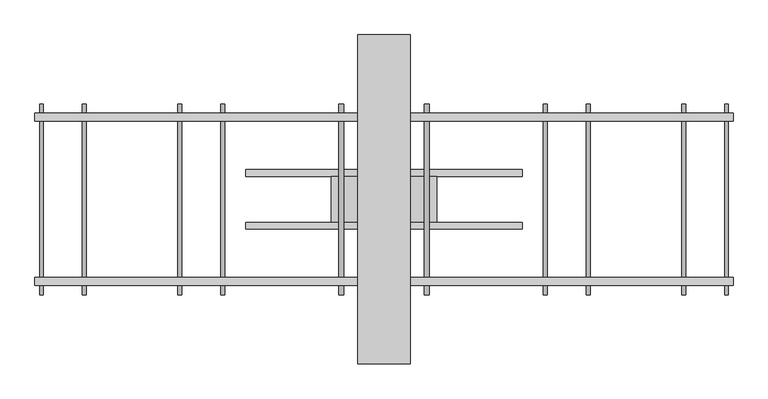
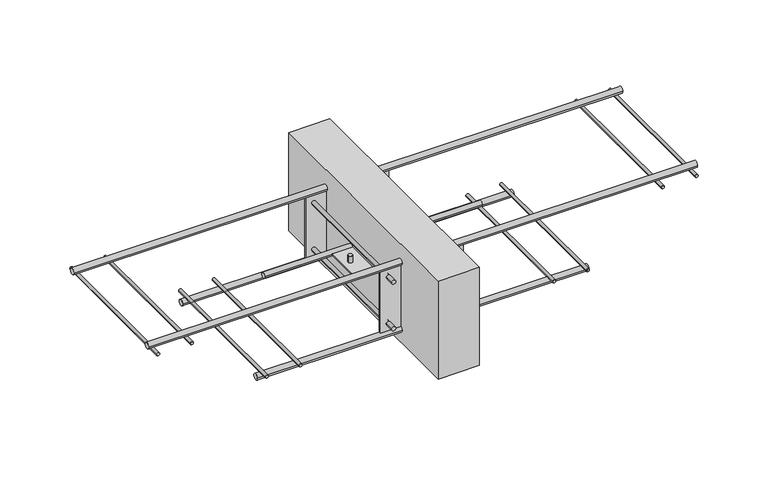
"""IFC4 building model written with IfcOpenShell, lengths in millimetres: fastener geometry, ACINOXplus_Typenreihe_K : KP(A)+ S1."""

from ifc_helpers import new_model, si_unit, point, frame, frame_2d, origin, place, context, project, spatial, polyline, circle_curve, trimmed, segment, composite_curve, outline, extrude, source, transform, mapped, element, save
from ifc_brep_helpers import plane_surface, cylinder_surface, advanced_brep


def fastener_73a1aff1(model_context):
    return source(origin(), model_context, "Body", "SolidModel", [
        extrude(outline(polyline([(40.0, 250.0), (40.0, -250.0), (-40.0, -250.0), (-40.0, 250.0), (40.0, 250.0)])), frame((0.0, 0.0, -200.0), z_axis=(0.0, 0.0, 1.0), x_axis=(1.0, 0.0, 0.0)), (0.0, 0.0, 1.0), 200.0),
        extrude(outline(composite_curve([segment(trimmed(circle_curve(frame_2d((-40.0, -104.5)), 5.0), [point((-45.0, -104.5))], [point((-35.0, -104.5))], False, "CARTESIAN"), True, "CONTINUOUS"), segment(trimmed(circle_curve(frame_2d((-40.0, -104.5)), 5.0), [point((-35.0, -104.5))], [point((-45.0, -104.5))], False, "CARTESIAN"), True, "CONTINUOUS")], self_intersect=False)), frame((-210.0, 0.0, 0.0), z_axis=(1.0, 0.0, 0.0), x_axis=(0.0, 1.0, 0.0)), (0.0, 0.0, 1.0), 420.0),
        extrude(outline(composite_curve([segment(trimmed(circle_curve(frame_2d((40.0, -104.5)), 5.0), [point((35.0, -104.5))], [point((45.0, -104.5))], False, "CARTESIAN"), True, "CONTINUOUS"), segment(trimmed(circle_curve(frame_2d((40.0, -104.5)), 5.0), [point((45.0, -104.5))], [point((35.0, -104.5))], False, "CARTESIAN"), True, "CONTINUOUS")], self_intersect=False)), frame((-210.0, 0.0, 0.0), z_axis=(1.0, 0.0, 0.0), x_axis=(0.0, 1.0, 0.0)), (0.0, 0.0, 1.0), 420.0),
        advanced_brep(
        [(-69.0, 0.0, -89.5), (-61.0, 0.0, -89.5), (61.0, 0.0, -89.5), (69.0, 0.0, -89.5), (-69.0, 0.0, -119.5), (-61.0, 0.0, -119.5), (61.0, 0.0, -119.5), (69.0, 0.0, -119.5), (-69.0, 0.0, -103.0), (-61.0, 0.0, -103.0), (-61.0, 0.0, -106.0), (-69.0, 0.0, -106.0), (61.0, 0.0, -103.0), (69.0, 0.0, -103.0), (69.0, 0.0, -106.0), (61.0, 0.0, -106.0), (80.0, 35.0, -103.0), (-80.0, 35.0, -103.0), (-80.0, -35.0, -103.0), (80.0, -35.0, -103.0), (80.0, 35.0, -106.0), (80.0, -35.0, -106.0), (-80.0, -35.0, -106.0), (-80.0, 35.0, -106.0)],
        [
            (0, 1, circle_curve(frame((-65.0, 0.0, -89.5), z_axis=(0.0, 0.0, 1.0), x_axis=(1.0, 0.0, 0.0)), 4.0)),
            (1, 0, circle_curve(frame((-65.0, 0.0, -89.5), z_axis=(0.0, 0.0, 1.0), x_axis=(1.0, 0.0, 0.0)), 4.0)),
            (2, 3, circle_curve(frame((65.0, 0.0, -89.5), z_axis=(0.0, 0.0, 1.0), x_axis=(1.0, 0.0, 0.0)), 4.0)),
            (3, 2, circle_curve(frame((65.0, 0.0, -89.5), z_axis=(0.0, 0.0, 1.0), x_axis=(1.0, 0.0, 0.0)), 4.0)),
            (4, 5, circle_curve(frame((-65.0, 0.0, -119.5), z_axis=(0.0, 0.0, -1.0), x_axis=(1.0, 0.0, 0.0)), 4.0)),
            (5, 4, circle_curve(frame((-65.0, 0.0, -119.5), z_axis=(0.0, 0.0, -1.0), x_axis=(1.0, 0.0, 0.0)), 4.0)),
            (6, 7, circle_curve(frame((65.0, 0.0, -119.5), z_axis=(0.0, 0.0, -1.0), x_axis=(1.0, 0.0, 0.0)), 4.0)),
            (7, 6, circle_curve(frame((65.0, 0.0, -119.5), z_axis=(0.0, 0.0, -1.0), x_axis=(1.0, 0.0, 0.0)), 4.0)),
            (0, 8),
            (8, 9, circle_curve(frame((-65.0, 0.0, -103.0), z_axis=(0.0, 0.0, 1.0), x_axis=(1.0, 0.0, 0.0)), 4.0)),
            (9, 1),
            (5, 10),
            (10, 11, circle_curve(frame((-65.0, 0.0, -106.0), z_axis=(0.0, 0.0, -1.0), x_axis=(1.0, 0.0, 0.0)), 4.0)),
            (11, 4),
            (9, 8, circle_curve(frame((-65.0, 0.0, -103.0), z_axis=(0.0, 0.0, 1.0), x_axis=(1.0, 0.0, 0.0)), 4.0)),
            (11, 10, circle_curve(frame((-65.0, 0.0, -106.0), z_axis=(0.0, 0.0, -1.0), x_axis=(1.0, 0.0, 0.0)), 4.0)),
            (2, 12),
            (12, 13, circle_curve(frame((65.0, 0.0, -103.0), z_axis=(0.0, 0.0, 1.0), x_axis=(1.0, 0.0, 0.0)), 4.0)),
            (13, 3),
            (7, 14),
            (14, 15, circle_curve(frame((65.0, 0.0, -106.0), z_axis=(0.0, 0.0, -1.0), x_axis=(1.0, 0.0, 0.0)), 4.0)),
            (15, 6),
            (13, 12, circle_curve(frame((65.0, 0.0, -103.0), z_axis=(0.0, 0.0, 1.0), x_axis=(1.0, 0.0, 0.0)), 4.0)),
            (15, 14, circle_curve(frame((65.0, 0.0, -106.0), z_axis=(0.0, 0.0, -1.0), x_axis=(1.0, 0.0, 0.0)), 4.0)),
            (16, 17),
            (17, 18),
            (18, 19),
            (19, 16),
            (20, 21),
            (21, 22),
            (22, 23),
            (23, 20),
            (16, 20),
            (23, 17),
            (22, 18),
            (21, 19),
        ],
        [
            plane_surface(frame((-61.0, 0.0, -89.5), z_axis=(0.0, 0.0, 1.0), x_axis=(0.0, 1.0, 0.0))),
            plane_surface(frame((-61.0, 0.0, -119.5), z_axis=(0.0, 0.0, -1.0), x_axis=(0.0, -1.0, 0.0))),
            cylinder_surface(frame((-65.0, 0.0, -119.5), z_axis=(0.0, 0.0, 1.0), x_axis=(1.0, 0.0, 0.0)), 4.0),
            cylinder_surface(frame((65.0, 0.0, -104.5), z_axis=(0.0, 0.0, 1.0), x_axis=(1.0, 0.0, 0.0)), 4.0),
            plane_surface(frame((-80.0, 35.0, -103.0), z_axis=(0.0, 0.0, 1.0), x_axis=(-1.0, 0.0, 0.0))),
            plane_surface(frame((-80.0, 35.0, -106.0), z_axis=(0.0, 0.0, -1.0), x_axis=(1.0, 0.0, 0.0))),
            plane_surface(frame((80.0, 35.0, -103.0), z_axis=(0.0, 1.0, 0.0), x_axis=(0.0, 0.0, -1.0))),
            plane_surface(frame((-80.0, 35.0, -103.0), z_axis=(-1.0, 0.0, 0.0), x_axis=(0.0, 0.0, -1.0))),
            plane_surface(frame((-80.0, -35.0, -103.0), z_axis=(0.0, -1.0, 0.0), x_axis=(0.0, 0.0, -1.0))),
            plane_surface(frame((80.0, -35.0, -103.0), z_axis=(1.0, 0.0, 0.0), x_axis=(0.0, 0.0, -1.0))),
        ],
        [
            (0, [[1, 2]]),
            (0, [[3, 4]]),
            (1, [[5, 6]]),
            (1, [[7, 8]]),
            (2, [[-1, 9, 10, 11]]),
            (2, [[-6, 12, 13, 14]]),
            (2, [[-2, -11, 15, -9]]),
            (2, [[-5, -14, 16, -12]]),
            (3, [[-3, 17, 18, 19]]),
            (3, [[-8, 20, 21, 22]]),
            (3, [[-4, -19, 23, -17]]),
            (3, [[-7, -22, 24, -20]]),
            (4, [[25, 26, 27, 28], [-10, -15], [-18, -23]]),
            (5, [[29, 30, 31, 32], [-13, -16], [-21, -24]]),
            (6, [[-25, 33, -32, 34]]),
            (7, [[-26, -34, -31, 35]]),
            (8, [[-27, -35, -30, 36]]),
            (9, [[-28, -36, -29, -33]]),
        ],
    ),
        extrude(outline(polyline([(80.0, -123.5), (80.0, -126.5), (-80.0, -126.5), (-80.0, -123.5), (80.0, -123.5)])), frame((0.0, 0.0, -167.0), z_axis=(0.0, 0.0, 1.0), x_axis=(1.0, 0.0, 0.0)), (0.0, 0.0, 1.0), 125.0),
        extrude(outline(polyline([(80.0, 126.5), (80.0, 123.5), (-80.0, 123.5), (-80.0, 126.5), (80.0, 126.5)])), frame((0.0, 0.0, -167.0), z_axis=(0.0, 0.0, 1.0), x_axis=(1.0, 0.0, 0.0)), (0.0, 0.0, 1.0), 125.0),
        extrude(outline(composite_curve([segment(trimmed(circle_curve(frame_2d((-152.0, -65.0)), 4.0), [point((-152.0, -69.0))], [point((-152.0, -61.0))], False, "CARTESIAN"), True, "CONTINUOUS"), segment(trimmed(circle_curve(frame_2d((-152.0, -65.0)), 4.0), [point((-152.0, -61.0))], [point((-152.0, -69.0))], False, "CARTESIAN"), True, "CONTINUOUS")], self_intersect=False)), frame((0.0, 126.5, 0.0), z_axis=(0.0, 1.0, 0.0), x_axis=(0.0, 0.0, 1.0)), (0.0, 0.0, 1.0), 18.5),
        extrude(outline(composite_curve([segment(trimmed(circle_curve(frame_2d((-152.0, -65.0)), 4.0), [point((-152.0, -61.0))], [point((-152.0, -69.0))], False, "CARTESIAN"), True, "CONTINUOUS"), segment(trimmed(circle_curve(frame_2d((-152.0, -65.0)), 4.0), [point((-152.0, -69.0))], [point((-152.0, -61.0))], False, "CARTESIAN"), True, "CONTINUOUS")], self_intersect=False)), frame((0.0, -145.0, 0.0), z_axis=(0.0, 1.0, 0.0), x_axis=(0.0, 0.0, 1.0)), (0.0, 0.0, 1.0), 18.5),
        extrude(outline(composite_curve([segment(trimmed(circle_curve(frame_2d((-152.0, -65.0)), 4.0), [point((-152.0, -69.0))], [point((-152.0, -61.0))], False, "CARTESIAN"), True, "CONTINUOUS"), segment(trimmed(circle_curve(frame_2d((-152.0, -65.0)), 4.0), [point((-152.0, -61.0))], [point((-152.0, -69.0))], False, "CARTESIAN"), True, "CONTINUOUS")], self_intersect=False)), frame((0.0, -123.5, 0.0), z_axis=(0.0, 1.0, 0.0), x_axis=(0.0, 0.0, 1.0)), (0.0, 0.0, 1.0), 247.0),
        extrude(outline(composite_curve([segment(trimmed(circle_curve(frame_2d((-152.0, 65.0)), 4.0), [point((-152.0, 61.0))], [point((-152.0, 69.0))], False, "CARTESIAN"), True, "CONTINUOUS"), segment(trimmed(circle_curve(frame_2d((-152.0, 65.0)), 4.0), [point((-152.0, 69.0))], [point((-152.0, 61.0))], False, "CARTESIAN"), True, "CONTINUOUS")], self_intersect=False)), frame((0.0, 126.5, 0.0), z_axis=(0.0, 1.0, 0.0), x_axis=(0.0, 0.0, 1.0)), (0.0, 0.0, 1.0), 18.5),
        extrude(outline(composite_curve([segment(trimmed(circle_curve(frame_2d((-152.0, 65.0)), 4.0), [point((-152.0, 69.0))], [point((-152.0, 61.0))], False, "CARTESIAN"), True, "CONTINUOUS"), segment(trimmed(circle_curve(frame_2d((-152.0, 65.0)), 4.0), [point((-152.0, 61.0))], [point((-152.0, 69.0))], False, "CARTESIAN"), True, "CONTINUOUS")], self_intersect=False)), frame((0.0, -145.0, 0.0), z_axis=(0.0, 1.0, 0.0), x_axis=(0.0, 0.0, 1.0)), (0.0, 0.0, 1.0), 18.5),
        extrude(outline(composite_curve([segment(trimmed(circle_curve(frame_2d((-152.0, 65.0)), 4.0), [point((-152.0, 61.0))], [point((-152.0, 69.0))], False, "CARTESIAN"), True, "CONTINUOUS"), segment(trimmed(circle_curve(frame_2d((-152.0, 65.0)), 4.0), [point((-152.0, 69.0))], [point((-152.0, 61.0))], False, "CARTESIAN"), True, "CONTINUOUS")], self_intersect=False)), frame((0.0, -123.5, 0.0), z_axis=(0.0, 1.0, 0.0), x_axis=(0.0, 0.0, 1.0)), (0.0, 0.0, 1.0), 247.0),
        extrude(outline(composite_curve([segment(trimmed(circle_curve(frame_2d((-57.0, -65.0)), 4.0), [point((-57.0, -69.0))], [point((-57.0, -61.0))], False, "CARTESIAN"), True, "CONTINUOUS"), segment(trimmed(circle_curve(frame_2d((-57.0, -65.0)), 4.0), [point((-57.0, -61.0))], [point((-57.0, -69.0))], False, "CARTESIAN"), True, "CONTINUOUS")], self_intersect=False)), frame((0.0, 126.5, 0.0), z_axis=(0.0, 1.0, 0.0), x_axis=(0.0, 0.0, 1.0)), (0.0, 0.0, 1.0), 18.5),
        extrude(outline(composite_curve([segment(trimmed(circle_curve(frame_2d((-57.0, -65.0)), 4.0), [point((-57.0, -61.0))], [point((-57.0, -69.0))], False, "CARTESIAN"), True, "CONTINUOUS"), segment(trimmed(circle_curve(frame_2d((-57.0, -65.0)), 4.0), [point((-57.0, -69.0))], [point((-57.0, -61.0))], False, "CARTESIAN"), True, "CONTINUOUS")], self_intersect=False)), frame((0.0, -145.0, 0.0), z_axis=(0.0, 1.0, 0.0), x_axis=(0.0, 0.0, 1.0)), (0.0, 0.0, 1.0), 18.5),
        extrude(outline(composite_curve([segment(trimmed(circle_curve(frame_2d((-57.0, -65.0)), 4.0), [point((-57.0, -69.0))], [point((-57.0, -61.0))], False, "CARTESIAN"), True, "CONTINUOUS"), segment(trimmed(circle_curve(frame_2d((-57.0, -65.0)), 4.0), [point((-57.0, -61.0))], [point((-57.0, -69.0))], False, "CARTESIAN"), True, "CONTINUOUS")], self_intersect=False)), frame((0.0, -123.5, 0.0), z_axis=(0.0, 1.0, 0.0), x_axis=(0.0, 0.0, 1.0)), (0.0, 0.0, 1.0), 247.0),
        extrude(outline(composite_curve([segment(trimmed(circle_curve(frame_2d((-57.0, 65.0)), 4.0), [point((-57.0, 61.0))], [point((-57.0, 69.0))], False, "CARTESIAN"), True, "CONTINUOUS"), segment(trimmed(circle_curve(frame_2d((-57.0, 65.0)), 4.0), [point((-57.0, 69.0))], [point((-57.0, 61.0))], False, "CARTESIAN"), True, "CONTINUOUS")], self_intersect=False)), frame((0.0, 126.5, 0.0), z_axis=(0.0, 1.0, 0.0), x_axis=(0.0, 0.0, 1.0)), (0.0, 0.0, 1.0), 18.5),
        extrude(outline(composite_curve([segment(trimmed(circle_curve(frame_2d((-57.0, 65.0)), 4.0), [point((-57.0, 69.0))], [point((-57.0, 61.0))], False, "CARTESIAN"), True, "CONTINUOUS"), segment(trimmed(circle_curve(frame_2d((-57.0, 65.0)), 4.0), [point((-57.0, 61.0))], [point((-57.0, 69.0))], False, "CARTESIAN"), True, "CONTINUOUS")], self_intersect=False)), frame((0.0, -145.0, 0.0), z_axis=(0.0, 1.0, 0.0), x_axis=(0.0, 0.0, 1.0)), (0.0, 0.0, 1.0), 18.5),
        extrude(outline(composite_curve([segment(trimmed(circle_curve(frame_2d((-57.0, 65.0)), 4.0), [point((-57.0, 61.0))], [point((-57.0, 69.0))], False, "CARTESIAN"), True, "CONTINUOUS"), segment(trimmed(circle_curve(frame_2d((-57.0, 65.0)), 4.0), [point((-57.0, 69.0))], [point((-57.0, 61.0))], False, "CARTESIAN"), True, "CONTINUOUS")], self_intersect=False)), frame((0.0, -123.5, 0.0), z_axis=(0.0, 1.0, 0.0), x_axis=(0.0, 0.0, 1.0)), (0.0, 0.0, 1.0), 247.0),
        extrude(outline(composite_curve([segment(trimmed(circle_curve(frame_2d((125.0, -173.0)), 6.0), [point((119.0, -173.0))], [point((131.0, -173.0))], False, "CARTESIAN"), True, "CONTINUOUS"), segment(trimmed(circle_curve(frame_2d((125.0, -173.0)), 6.0), [point((131.0, -173.0))], [point((119.0, -173.0))], False, "CARTESIAN"), True, "CONTINUOUS")], self_intersect=False)), frame((-320.0, 0.0, 0.0), z_axis=(1.0, 0.0, 0.0), x_axis=(0.0, 1.0, 0.0)), (0.0, 0.0, 1.0), 640.0),
        extrude(outline(composite_curve([segment(trimmed(circle_curve(frame_2d((-125.0, -173.0)), 6.0), [point((-131.0, -173.0))], [point((-119.0, -173.0))], False, "CARTESIAN"), True, "CONTINUOUS"), segment(trimmed(circle_curve(frame_2d((-125.0, -173.0)), 6.0), [point((-119.0, -173.0))], [point((-131.0, -173.0))], False, "CARTESIAN"), True, "CONTINUOUS")], self_intersect=False)), frame((-320.0, 0.0, 0.0), z_axis=(1.0, 0.0, 0.0), x_axis=(0.0, 1.0, 0.0)), (0.0, 0.0, 1.0), 640.0),
        extrude(outline(composite_curve([segment(trimmed(circle_curve(frame_2d((125.0, -36.0)), 6.0), [point((119.0, -36.0))], [point((131.0, -36.0))], False, "CARTESIAN"), True, "CONTINUOUS"), segment(trimmed(circle_curve(frame_2d((125.0, -36.0)), 6.0), [point((131.0, -36.0))], [point((119.0, -36.0))], False, "CARTESIAN"), True, "CONTINUOUS")], self_intersect=False)), frame((-530.0, 0.0, 0.0), z_axis=(1.0, 0.0, 0.0), x_axis=(0.0, 1.0, 0.0)), (0.0, 0.0, 1.0), 1060.0),
        extrude(outline(composite_curve([segment(trimmed(circle_curve(frame_2d((-125.0, -36.0)), 6.0), [point((-131.0, -36.0))], [point((-119.0, -36.0))], False, "CARTESIAN"), True, "CONTINUOUS"), segment(trimmed(circle_curve(frame_2d((-125.0, -36.0)), 6.0), [point((-119.0, -36.0))], [point((-131.0, -36.0))], False, "CARTESIAN"), True, "CONTINUOUS")], self_intersect=False)), frame((-530.0, 0.0, 0.0), z_axis=(1.0, 0.0, 0.0), x_axis=(0.0, 1.0, 0.0)), (0.0, 0.0, 1.0), 1060.0),
        extrude(outline(composite_curve([segment(trimmed(circle_curve(frame_2d((-164.0, -310.0)), 3.0), [point((-164.0, -307.0))], [point((-164.0, -313.0))], False, "CARTESIAN"), True, "CONTINUOUS"), segment(trimmed(circle_curve(frame_2d((-164.0, -310.0)), 3.0), [point((-164.0, -313.0))], [point((-164.0, -307.0))], False, "CARTESIAN"), True, "CONTINUOUS")], self_intersect=False)), frame((0.0, -145.0, 0.0), z_axis=(0.0, 1.0, 0.0), x_axis=(0.0, 0.0, 1.0)), (0.0, 0.0, 1.0), 290.0),
        extrude(outline(composite_curve([segment(trimmed(circle_curve(frame_2d((-164.0, -245.0)), 3.0), [point((-164.0, -242.0))], [point((-164.0, -248.0))], False, "CARTESIAN"), True, "CONTINUOUS"), segment(trimmed(circle_curve(frame_2d((-164.0, -245.0)), 3.0), [point((-164.0, -248.0))], [point((-164.0, -242.0))], False, "CARTESIAN"), True, "CONTINUOUS")], self_intersect=False)), frame((0.0, -145.0, 0.0), z_axis=(0.0, 1.0, 0.0), x_axis=(0.0, 0.0, 1.0)), (0.0, 0.0, 1.0), 290.0),
        extrude(outline(composite_curve([segment(trimmed(circle_curve(frame_2d((-164.0, 245.0)), 3.0), [point((-164.0, 248.0))], [point((-164.0, 242.0))], False, "CARTESIAN"), True, "CONTINUOUS"), segment(trimmed(circle_curve(frame_2d((-164.0, 245.0)), 3.0), [point((-164.0, 242.0))], [point((-164.0, 248.0))], False, "CARTESIAN"), True, "CONTINUOUS")], self_intersect=False)), frame((0.0, -145.0, 0.0), z_axis=(0.0, 1.0, 0.0), x_axis=(0.0, 0.0, 1.0)), (0.0, 0.0, 1.0), 290.0),
        extrude(outline(composite_curve([segment(trimmed(circle_curve(frame_2d((-164.0, 310.0)), 3.0), [point((-164.0, 313.0))], [point((-164.0, 307.0))], False, "CARTESIAN"), True, "CONTINUOUS"), segment(trimmed(circle_curve(frame_2d((-164.0, 310.0)), 3.0), [point((-164.0, 307.0))], [point((-164.0, 313.0))], False, "CARTESIAN"), True, "CONTINUOUS")], self_intersect=False)), frame((0.0, -145.0, 0.0), z_axis=(0.0, 1.0, 0.0), x_axis=(0.0, 0.0, 1.0)), (0.0, 0.0, 1.0), 290.0),
        extrude(outline(composite_curve([segment(trimmed(circle_curve(frame_2d((-45.0, 455.0)), 3.0), [point((-45.0, 458.0))], [point((-45.0, 452.0))], False, "CARTESIAN"), True, "CONTINUOUS"), segment(trimmed(circle_curve(frame_2d((-45.0, 455.0)), 3.0), [point((-45.0, 452.0))], [point((-45.0, 458.0))], False, "CARTESIAN"), True, "CONTINUOUS")], self_intersect=False)), frame((0.0, -145.0, 0.0), z_axis=(0.0, 1.0, 0.0), x_axis=(0.0, 0.0, 1.0)), (0.0, 0.0, 1.0), 290.0),
        extrude(outline(composite_curve([segment(trimmed(circle_curve(frame_2d((-45.0, 520.0)), 3.0), [point((-45.0, 523.0))], [point((-45.0, 517.0))], False, "CARTESIAN"), True, "CONTINUOUS"), segment(trimmed(circle_curve(frame_2d((-45.0, 520.0)), 3.0), [point((-45.0, 517.0))], [point((-45.0, 523.0))], False, "CARTESIAN"), True, "CONTINUOUS")], self_intersect=False)), frame((0.0, -145.0, 0.0), z_axis=(0.0, 1.0, 0.0), x_axis=(0.0, 0.0, 1.0)), (0.0, 0.0, 1.0), 290.0),
        extrude(outline(composite_curve([segment(trimmed(circle_curve(frame_2d((-45.0, -520.0)), 3.0), [point((-45.0, -517.0))], [point((-45.0, -523.0))], False, "CARTESIAN"), True, "CONTINUOUS"), segment(trimmed(circle_curve(frame_2d((-45.0, -520.0)), 3.0), [point((-45.0, -523.0))], [point((-45.0, -517.0))], False, "CARTESIAN"), True, "CONTINUOUS")], self_intersect=False)), frame((0.0, -145.0, 0.0), z_axis=(0.0, 1.0, 0.0), x_axis=(0.0, 0.0, 1.0)), (0.0, 0.0, 1.0), 290.0),
        extrude(outline(composite_curve([segment(trimmed(circle_curve(frame_2d((-45.0, -455.0)), 3.0), [point((-45.0, -452.0))], [point((-45.0, -458.0))], False, "CARTESIAN"), True, "CONTINUOUS"), segment(trimmed(circle_curve(frame_2d((-45.0, -455.0)), 3.0), [point((-45.0, -458.0))], [point((-45.0, -452.0))], False, "CARTESIAN"), True, "CONTINUOUS")], self_intersect=False)), frame((0.0, -145.0, 0.0), z_axis=(0.0, 1.0, 0.0), x_axis=(0.0, 0.0, 1.0)), (0.0, 0.0, 1.0), 290.0),
    ])


if __name__ == "__main__":
    model = new_model("IFC4")
    model_context = context("Model", 3, world=origin())
    ifc_project = project(units=[si_unit("LENGTHUNIT", "METRE", prefix="MILLI")], contexts=[model_context])
    site = spatial("IfcSite", under=ifc_project)
    building = spatial("IfcBuilding", under=site)
    placement = place(None, origin())
    fastener_shape = fastener_73a1aff1(model_context)
    element("IfcFastener", 1, ObjectType="ACINOXplus_Typenreihe_K : KP(A)+ S1", at=placement, inside=building, context=model_context, shape_type="MappedRepresentation", body=[
        mapped(fastener_shape, transform((0.0, 0.0, 0.0), x_axis=(1.0, 0.0, 0.0), y_axis=(0.0, 1.0, 0.0), z_axis=(0.0, 0.0, 1.0))),
    ])
    save(model, "model.ifc")
